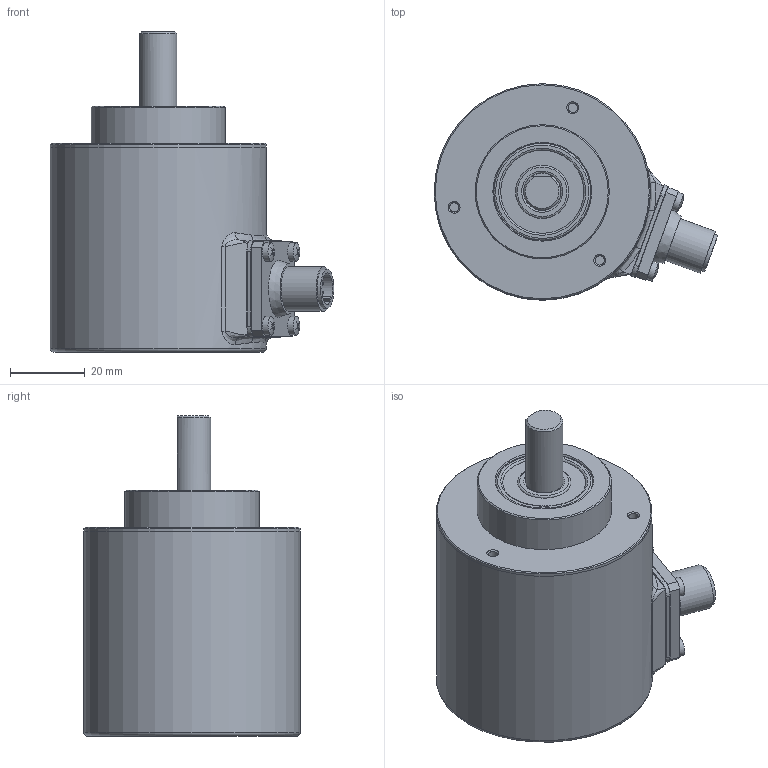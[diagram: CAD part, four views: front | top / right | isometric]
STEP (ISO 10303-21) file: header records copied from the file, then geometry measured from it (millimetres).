
FILE_DESCRIPTION (( 'STEP AP214' ), '1' );
FILE_NAME ('8.5805.12XG.XXXX.STEP', '2016-11-28T09:02:32', ( 'HeirlerN' ), ( 'Microsoft' ), 'SwSTEP 2.0', 'SolidWorks 2013', '' );
FILE_SCHEMA (( 'AUTOMOTIVE_DESIGN' ));
Length unit declared in the file: millimetre
Products named in the file (1): 8.5805.12XG.XXXX
Bounding box: 76.13 x 58 x 85.95 mm (x, y, z)
Surface area: 23109.2 mm2 (no closed solid volume)
Topology: 0 solids, 11 shells, 154 faces, 413 edges, 271 vertices
Faces by surface type: plane 79, cylinder 28, bspline 18, cone 16, sphere 12, torus 1
Full cylindrical faces by diameter (mm): 0.8 x7, 2.5 x3, 5 x4, 10 x1, 10.5 x1, 12 x1, 26 x1, 36 x1, 58 x2
Entity records: 7056 total; most frequent: CARTESIAN_POINT 1892, DIRECTION 716, ORIENTED_EDGE 613, EDGE_CURVE 339, AXIS2_PLACEMENT_3D 280, VERTEX_POINT 246, EDGE_LOOP 233, FACE_OUTER_BOUND 184
